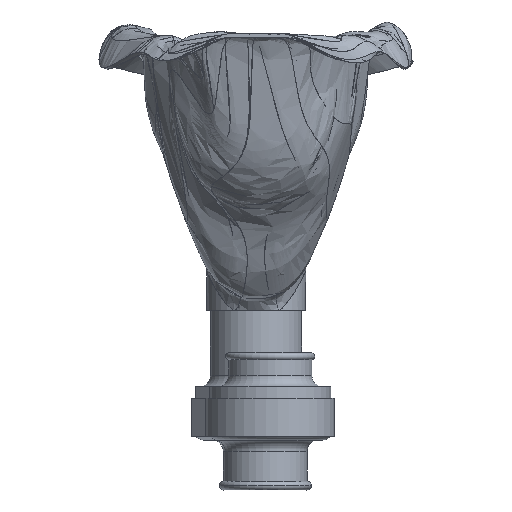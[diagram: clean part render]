
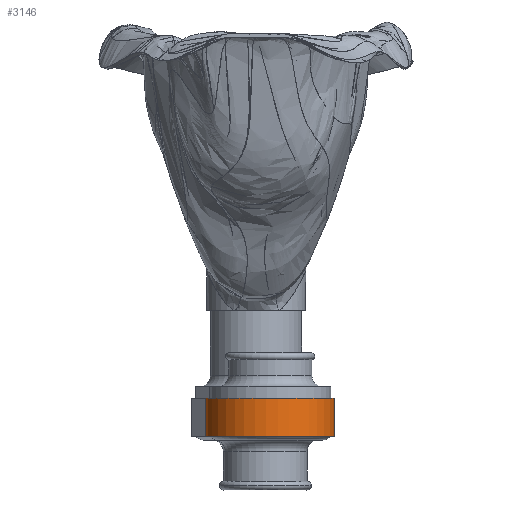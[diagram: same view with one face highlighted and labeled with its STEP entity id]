
A CAD part, front view. The second image highlights one B-rep face of the part: STEP entity #3146.
In plain terms, the highlighted cylindrical face has radius 17 mm (diameter 34 mm), a partial arc.
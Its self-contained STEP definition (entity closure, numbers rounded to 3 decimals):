
#222=FACE_OUTER_BOUND('',#346,.T.);
#346=EDGE_LOOP('',(#2791,#2792,#2793,#2794));
#512=CIRCLE('',#3661,17.);
#513=CIRCLE('',#3662,17.);
#701=LINE('',#30543,#863);
#702=LINE('',#30546,#864);
#863=VECTOR('',#4276,10.);
#864=VECTOR('',#4279,10.);
#1595=VERTEX_POINT('',#30539);
#1596=VERTEX_POINT('',#30540);
#1597=VERTEX_POINT('',#30542);
#1598=VERTEX_POINT('',#30544);
#2193=EDGE_CURVE('',#1595,#1596,#512,.T.);
#2194=EDGE_CURVE('',#1596,#1597,#701,.T.);
#2195=EDGE_CURVE('',#1597,#1598,#513,.T.);
#2196=EDGE_CURVE('',#1598,#1595,#702,.T.);
#2791=ORIENTED_EDGE('',*,*,#2193,.T.);
#2792=ORIENTED_EDGE('',*,*,#2194,.T.);
#2793=ORIENTED_EDGE('',*,*,#2195,.T.);
#2794=ORIENTED_EDGE('',*,*,#2196,.T.);
#2941=CYLINDRICAL_SURFACE('',#3660,17.);
#3146=ADVANCED_FACE('',(#222),#2941,.T.);
#3660=AXIS2_PLACEMENT_3D('',#30538,#4272,#4273);
#3661=AXIS2_PLACEMENT_3D('',#30541,#4274,#4275);
#3662=AXIS2_PLACEMENT_3D('',#30545,#4277,#4278);
#4272=DIRECTION('center_axis',(0.,-1.,0.));
#4273=DIRECTION('ref_axis',(0.,0.,-1.));
#4274=DIRECTION('center_axis',(0.,1.,0.));
#4275=DIRECTION('ref_axis',(0.,0.,
1.));
#4276=DIRECTION('',(0.,1.,0.));
#4277=DIRECTION('center_axis',(0.,-1.,0.));
#4278=DIRECTION('ref_axis',(0.,0.,
-1.));
#4279=DIRECTION('',(0.,-1.,0.));
#30538=CARTESIAN_POINT('Origin',(32.,5.,0.));
#30539=CARTESIAN_POINT('',(32.,0.,17.));
#30540=CARTESIAN_POINT('',(32.,0.,-17.));
#30541=CARTESIAN_POINT('Origin',(32.,0.,0.));
#30542=CARTESIAN_POINT('',(32.,10.,-17.));
#30543=CARTESIAN_POINT('',(32.,0.,-17.));
#30544=CARTESIAN_POINT('',(32.,10.,17.));
#30545=CARTESIAN_POINT('Origin',(32.,10.,0.));
#30546=CARTESIAN_POINT('',(32.,10.,17.));
